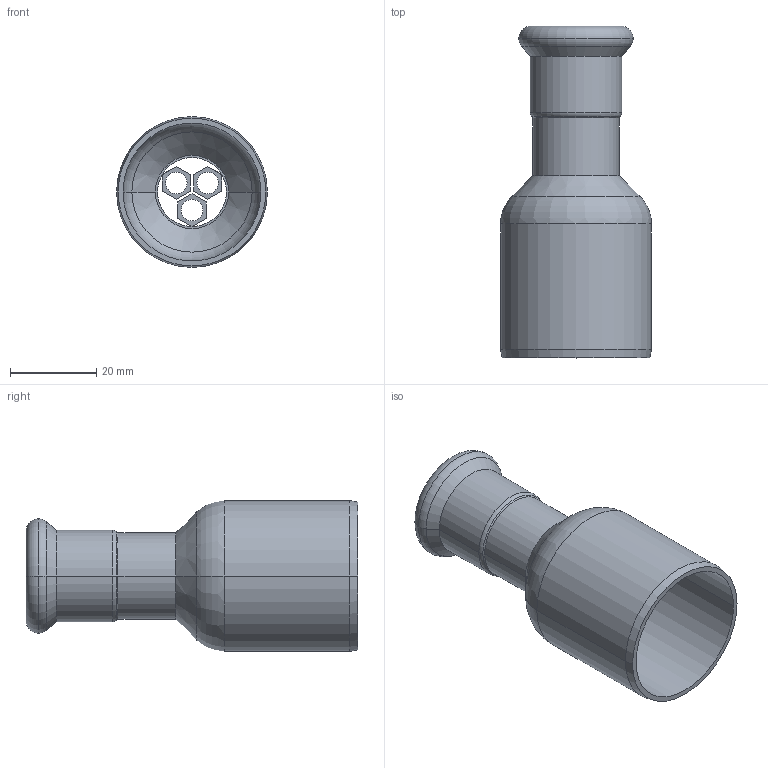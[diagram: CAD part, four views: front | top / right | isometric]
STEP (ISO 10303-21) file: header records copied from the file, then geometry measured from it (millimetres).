
FILE_DESCRIPTION(('OneSpaceDesigner STEP Export'),'2;1');
FILE_NAME('R2707 18x35.stp','2010-06-09T13:02:02',(''),(''),'OneSpace Designer STEP processor for AP214 (Solid Model)','OneSpace Modeling 15.00A 14-Mar-2007 (C) CoCreate Software GmbH','');
FILE_SCHEMA(('AUTOMOTIVE_DESIGN { 1 0 10303 214 1 1 1 1 }'));
Length unit declared in the file: millimetre
Products named in the file (2): R2707_18x35
Assembly tree (1 placements, depth 2):
  R2707_18x35
    R2707_18x35
Bounding box: 35 x 77 x 35 mm (x, y, z)
Volume: 11131 mm3; surface area: 14062.7 mm2
Topology: 1 solids, 1 shells, 77 faces, 181 edges, 112 vertices
Faces by surface type: plane 32, cylinder 25, cone 10, torus 10
Entity records: 1978 total; most frequent: ORIENTED_EDGE 362, CARTESIAN_POINT 314, DIRECTION 303, EDGE_CURVE 181, VERTEX_POINT 112, AXIS2_PLACEMENT_3D 101, VECTOR 101, LINE 101
